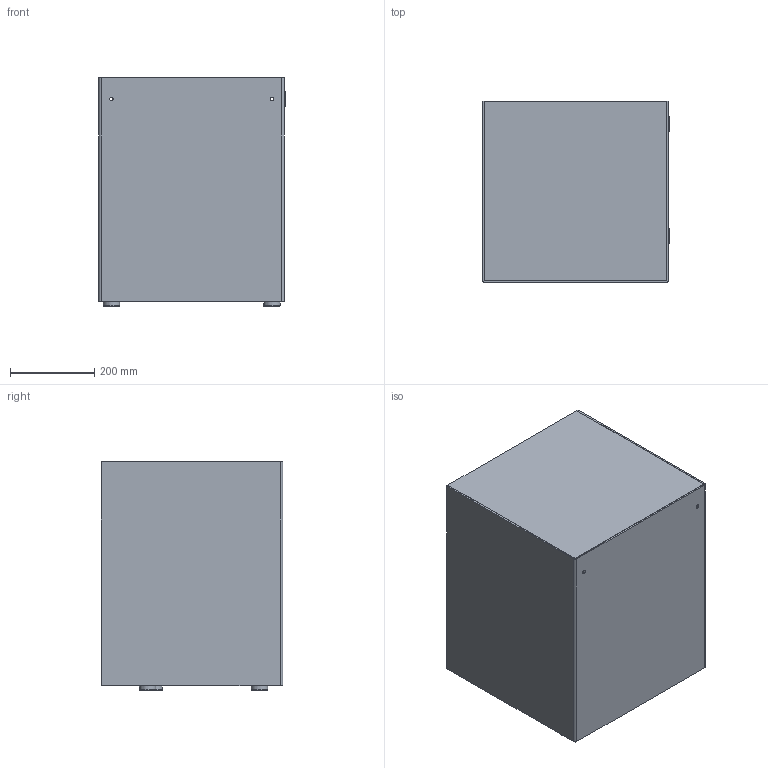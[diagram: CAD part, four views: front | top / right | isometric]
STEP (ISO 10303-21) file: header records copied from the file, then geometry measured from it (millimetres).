
FILE_DESCRIPTION(/* description */ (''),/* implementation_level */ '2;1');
FILE_NAME(/* name */ '11-0000-050890_600MAX Small Bench.stp',/* time_stamp */ '2023-02-08T14:17:49+01:00',/* author */ ('ksj'),/* organization */ (''),/* preprocessor_version */ 'ST-DEVELOPER v19.2',/* originating_system */ 'Autodesk Inventor 2023',/* authorisation */ '');
FILE_SCHEMA (('AUTOMOTIVE_DESIGN { 1 0 10303 214 3 1 1 }'));
Length unit declared in the file: millimetre
Products named in the file (12): 11-0000-050890; 11-0000-0508SV; 11-0000-050801; 11-0000-050802; 11-0000-050803; 11-0000-050804; 10-0000-0402; 10-0000-040201; 10-0000-040202; 10-0000-040203; 10-0000-040204; 1612420
Assembly tree (15 placements, depth 3):
  11-0000-050890
    11-0000-0508SV
      11-0000-050801
      11-0000-050802
      11-0000-050803
      11-0000-050804
    10-0000-0402  x4
      10-0000-040201
      10-0000-040202
      10-0000-040203
      10-0000-040204
    1612420  x2
Bounding box: 442 x 430 x 541 mm (x, y, z)
Volume: 4287174.5 mm3; surface area: 2183475.4 mm2
Topology: 22 solids, 22 shells, 144 faces, 284 edges, 184 vertices
Faces by surface type: plane 108, cylinder 36
Full cylindrical faces by diameter (mm): 8 x2, 22 x4, 22.5 x4, 24 x4, 25 x4, 35 x2, 38 x4, 39 x4
Entity records: 3221 total; most frequent: DIRECTION 513, CARTESIAN_POINT 499, ORIENTED_EDGE 454, EDGE_CURVE 227, LINE 193, VECTOR 193, AXIS2_PLACEMENT_3D 160, VERTEX_POINT 146
